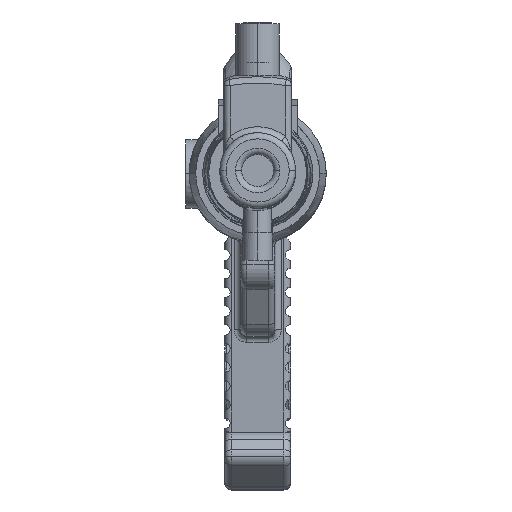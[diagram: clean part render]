
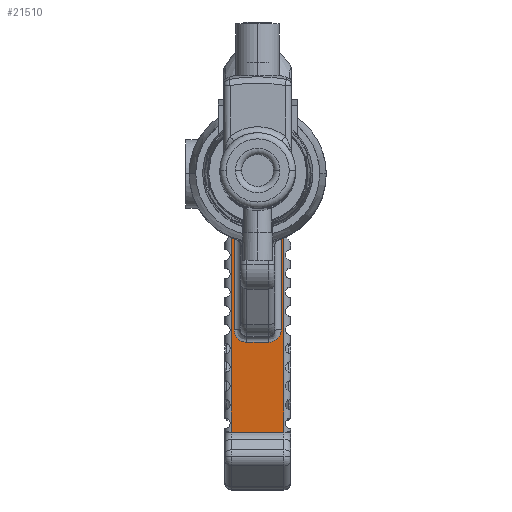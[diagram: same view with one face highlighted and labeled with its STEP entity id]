
A CAD part, top view. The second image highlights one B-rep face of the part: STEP entity #21510.
In plain terms, the highlighted planar face has unit normal (0, -0.07, 0.998).
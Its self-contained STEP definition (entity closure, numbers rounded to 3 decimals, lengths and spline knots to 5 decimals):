
#1322 = LINE ( 'NONE', #36061, #1335 ) ;
#1335 = VECTOR ( 'NONE', #36065, 39.37008 ) ;
#1512 = LINE ( 'NONE', #36327, #1516 ) ;
#1516 = VECTOR ( 'NONE', #36336, 39.37008 ) ;
#5093 = DIRECTION ( 'NONE',  ( 0., -0.998, -0.07 ) ) ;
#5099 = CARTESIAN_POINT ( 'NONE',  ( -0.084, -0.82247, -1.97994 ) ) ;
#7320 = CARTESIAN_POINT ( 'NONE',  ( -0.075, -0.82247, -1.97994 ) ) ;
#7322 = CARTESIAN_POINT ( 'NONE',  ( -0.075, -0.4958, -1.9571 ) ) ;
#7324 = CARTESIAN_POINT ( 'NONE',  ( -0.08103, -0.20223, -1.93657 ) ) ;
#7332 = CARTESIAN_POINT ( 'NONE',  ( -0.075, -0.51923, -1.95873 ) ) ;
#7334 = DIRECTION ( 'NONE',  ( -1., 0., 0. ) ) ;
#7343 = CARTESIAN_POINT ( 'NONE',  ( 0.075, -0.4958, -1.9571 ) ) ;
#7344 = CARTESIAN_POINT ( 'NONE',  ( -0.055, -0.5358, -1.95989 ) ) ;
#7352 = CARTESIAN_POINT ( 'NONE',  ( 0.035, -0.5358, -1.95989 ) ) ;
#7355 = CARTESIAN_POINT ( 'NONE',  ( -0.05843, -0.5358, -1.95989 ) ) ;
#7358 = DIRECTION ( 'NONE',  ( 0., -0.998, -0.07 ) ) ;
#7360 = CARTESIAN_POINT ( 'NONE',  ( 0.05843, -0.5358, -1.95989 ) ) ;
#7365 = CARTESIAN_POINT ( 'NONE',  ( 0.075, -0.2045, -1.93673 ) ) ;
#7369 = CARTESIAN_POINT ( 'NONE',  ( 0.075, -0.51719, -1.95859 ) ) ;
#7371 = CARTESIAN_POINT ( 'NONE',  ( 0.084, -0.20099, -1.93648 ) ) ;
#7372 = CARTESIAN_POINT ( 'NONE',  ( 0.075, -0.51923, -1.95873 ) ) ;
#7384 = CARTESIAN_POINT ( 'NONE',  ( 0.08103, -0.20223, -1.93657 ) ) ;
#7397 = CARTESIAN_POINT ( 'NONE',  ( -0.035, -0.5358, -1.95989 ) ) ;
#7463 = CARTESIAN_POINT ( 'NONE',  ( -0.084, -0.20099, -1.93648 ) ) ;
#7464 = DIRECTION ( 'NONE',  ( 0., 0.998, 0.07 ) ) ;
#7465 = CARTESIAN_POINT ( 'NONE',  ( -0.075, -0.2045, -1.93673 ) ) ;
#7467 = CARTESIAN_POINT ( 'NONE',  ( -0.07803, -0.2034, -1.93665 ) ) ;
#7468 = CARTESIAN_POINT ( 'NONE',  ( 0.07803, -0.2034, -1.93665 ) ) ;
#7676 = EDGE_CURVE ( 'NONE', #28875, #30538, #16125, .T. ) ;
#7677 = EDGE_CURVE ( 'NONE', #30538, #30507, #12937, .T. ) ;
#7678 = EDGE_CURVE ( 'NONE', #30484, #30507, #16124, .T. ) ;
#7679 = EDGE_CURVE ( 'NONE', #30484, #30512, #12940, .T. ) ;
#7680 = EDGE_CURVE ( 'NONE', #30481, #30512, #16122, .T. ) ;
#7681 = EDGE_CURVE ( 'NONE', #30481, #30502, #12942, .T. ) ;
#7682 = EDGE_CURVE ( 'NONE', #30502, #28904, #16121, .T. ) ;
#9396 = LINE ( 'NONE', #5099, #9403 ) ;
#9403 = VECTOR ( 'NONE', #5093, 39.37008 ) ;
#10291 = FACE_OUTER_BOUND ( 'NONE', #15514, .T. ) ;
#12937 = LINE ( 'NONE', #7369, #12939 ) ;
#12939 = VECTOR ( 'NONE', #7358, 39.37008 ) ;
#12940 = LINE ( 'NONE', #7344, #12941 ) ;
#12941 = VECTOR ( 'NONE', #7334, 39.37008 ) ;
#12942 = LINE ( 'NONE', #7320, #12943 ) ;
#12943 = VECTOR ( 'NONE', #7464, 39.37008 ) ;
#15514 = EDGE_LOOP ( 'NONE', ( #30897, #30898, #30899, #30900, #30901, #30902, #30903, #30904, #30905, #30906 ) ) ;
#16121 =( BOUNDED_CURVE ( )  B_SPLINE_CURVE ( 3, ( #7465, #7467, #7324, #7463 ),
 .UNSPECIFIED., .F., .T. ) 
 B_SPLINE_CURVE_WITH_KNOTS ( ( 4, 4 ),
 ( 3.49081, 3.53488 ),
 .UNSPECIFIED. ) 
 CURVE ( )  GEOMETRIC_REPRESENTATION_ITEM ( )  RATIONAL_B_SPLINE_CURVE ( ( 1., 1., 1., 1. ) ) 
 REPRESENTATION_ITEM ( '' )  );
#16122 =( BOUNDED_CURVE ( )  B_SPLINE_CURVE ( 3, ( #7322, #7332, #7355, #7397 ),
 .UNSPECIFIED., .F., .T. ) 
 B_SPLINE_CURVE_WITH_KNOTS ( ( 4, 4 ),
 ( 1.5708, 3.14159 ),
 .UNSPECIFIED. ) 
 CURVE ( )  GEOMETRIC_REPRESENTATION_ITEM ( )  RATIONAL_B_SPLINE_CURVE ( ( 1., 0.805, 0.805, 1. ) ) 
 REPRESENTATION_ITEM ( '' )  );
#16124 =( BOUNDED_CURVE ( )  B_SPLINE_CURVE ( 3, ( #7352, #7360, #7372, #7343 ),
 .UNSPECIFIED., .F., .T. ) 
 B_SPLINE_CURVE_WITH_KNOTS ( ( 4, 4 ),
 ( 0., 1.5708 ),
 .UNSPECIFIED. ) 
 CURVE ( )  GEOMETRIC_REPRESENTATION_ITEM ( )  RATIONAL_B_SPLINE_CURVE ( ( 1., 0.805, 0.805, 1. ) ) 
 REPRESENTATION_ITEM ( '' )  );
#16125 =( BOUNDED_CURVE ( )  B_SPLINE_CURVE ( 3, ( #7371, #7384, #7468, #7365 ),
 .UNSPECIFIED., .F., .T. ) 
 B_SPLINE_CURVE_WITH_KNOTS ( ( 4, 4 ),
 ( 2.74831, 2.79237 ),
 .UNSPECIFIED. ) 
 CURVE ( )  GEOMETRIC_REPRESENTATION_ITEM ( )  RATIONAL_B_SPLINE_CURVE ( ( 1., 1., 1., 1. ) ) 
 REPRESENTATION_ITEM ( '' )  );
#17261 = EDGE_CURVE ( 'NONE', #28904, #28900, #9396, .T. ) ;
#21510 = ADVANCED_FACE ( 'NONE', ( #10291 ), #24282, .F. ) ;
#22973 = AXIS2_PLACEMENT_3D ( 'NONE', #24280, #24286, #24287 ) ;
#24280 = CARTESIAN_POINT ( 'NONE',  ( 0.105, -0.82247, -1.97994 ) ) ;
#24282 = PLANE ( 'NONE',  #22973 ) ;
#24286 = DIRECTION ( 'NONE',  ( 0., 0.07, -0.998 ) ) ;
#24287 = DIRECTION ( 'NONE',  ( 0., 0.998, 0.07 ) ) ;
#28875 = VERTEX_POINT ( 'NONE', #34629 ) ;
#28882 = VERTEX_POINT ( 'NONE', #34636 ) ;
#28900 = VERTEX_POINT ( 'NONE', #34654 ) ;
#28904 = VERTEX_POINT ( 'NONE', #34658 ) ;
#30481 = VERTEX_POINT ( 'NONE', #35648 ) ;
#30484 = VERTEX_POINT ( 'NONE', #35650 ) ;
#30502 = VERTEX_POINT ( 'NONE', #35669 ) ;
#30507 = VERTEX_POINT ( 'NONE', #35675 ) ;
#30512 = VERTEX_POINT ( 'NONE', #35680 ) ;
#30538 = VERTEX_POINT ( 'NONE', #35709 ) ;
#30897 = ORIENTED_EDGE ( 'NONE', *, *, #7676, .T. ) ;
#30898 = ORIENTED_EDGE ( 'NONE', *, *, #7677, .T. ) ;
#30899 = ORIENTED_EDGE ( 'NONE', *, *, #7678, .F. ) ;
#30900 = ORIENTED_EDGE ( 'NONE', *, *, #7679, .T. ) ;
#30901 = ORIENTED_EDGE ( 'NONE', *, *, #7680, .F. ) ;
#30902 = ORIENTED_EDGE ( 'NONE', *, *, #7681, .T. ) ;
#30903 = ORIENTED_EDGE ( 'NONE', *, *, #7682, .T. ) ;
#30904 = ORIENTED_EDGE ( 'NONE', *, *, #17261, .T. ) ;
#30905 = ORIENTED_EDGE ( 'NONE', *, *, #33732, .F. ) ;
#30906 = ORIENTED_EDGE ( 'NONE', *, *, #33574, .T. ) ;
#33574 = EDGE_CURVE ( 'NONE', #28882, #28875, #1322, .T. ) ;
#33732 = EDGE_CURVE ( 'NONE', #28882, #28900, #1512, .T. ) ;
#34629 = CARTESIAN_POINT ( 'NONE',  ( 0.084, -0.20099, -1.93648 ) ) ;
#34636 = CARTESIAN_POINT ( 'NONE',  ( 0.084, -0.82247, -1.97994 ) ) ;
#34654 = CARTESIAN_POINT ( 'NONE',  ( -0.084, -0.82247, -1.97994 ) ) ;
#34658 = CARTESIAN_POINT ( 'NONE',  ( -0.084, -0.20099, -1.93648 ) ) ;
#35648 = CARTESIAN_POINT ( 'NONE',  ( -0.075, -0.4958, -1.9571 ) ) ;
#35650 = CARTESIAN_POINT ( 'NONE',  ( 0.035, -0.5358, -1.95989 ) ) ;
#35669 = CARTESIAN_POINT ( 'NONE',  ( -0.075, -0.2045, -1.93673 ) ) ;
#35675 = CARTESIAN_POINT ( 'NONE',  ( 0.075, -0.4958, -1.9571 ) ) ;
#35680 = CARTESIAN_POINT ( 'NONE',  ( -0.035, -0.5358, -1.95989 ) ) ;
#35709 = CARTESIAN_POINT ( 'NONE',  ( 0.075, -0.2045, -1.93673 ) ) ;
#36061 = CARTESIAN_POINT ( 'NONE',  ( 0.084, -0.16809, -1.93418 ) ) ;
#36065 = DIRECTION ( 'NONE',  ( 0., 0.998, 0.07 ) ) ;
#36327 = CARTESIAN_POINT ( 'NONE',  ( 0.105, -0.82247, -1.97994 ) ) ;
#36336 = DIRECTION ( 'NONE',  ( -1., 0., 0. ) ) ;
